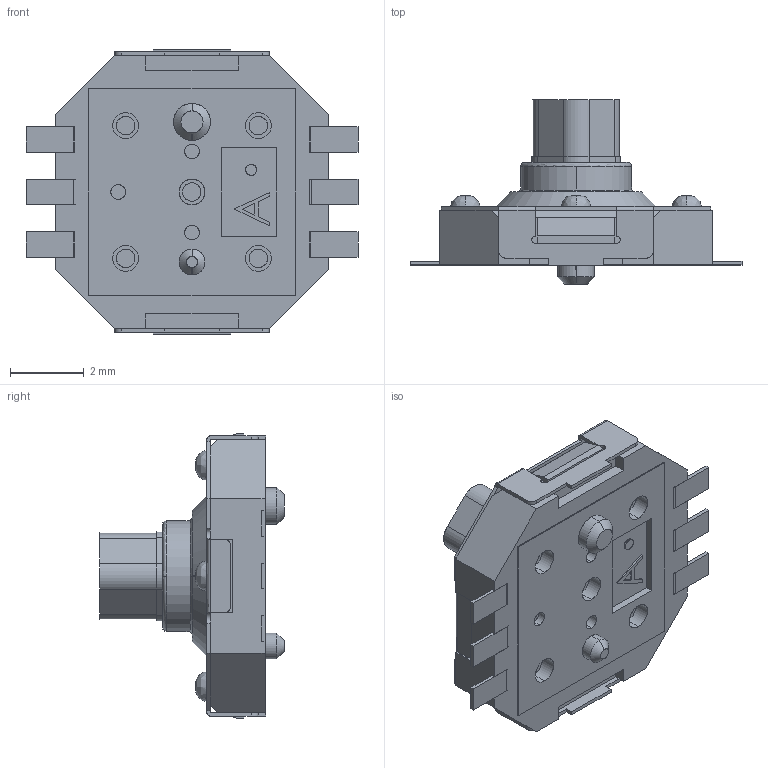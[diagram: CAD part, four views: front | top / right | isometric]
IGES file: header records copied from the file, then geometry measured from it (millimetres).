
Start section: SolidWorks IGES FILE using analytic representation for surfaces
Global section: file name: I:\J-暫存區\MT5-F.IGS,45; native system: HSolidWorks 2001Plus by SolidWorks Corporation; preprocessor: Version 5.3; author: RA6; date: 060616.160310; units: millimetre
Bounding box: 9 x 5 x 7.7 mm (x, y, z)
Surface area: 531.1 mm2 (no closed solid volume)
Topology: 0 solids, 0 shells, 986 faces, 30795 edges, 47439 vertices
Faces by surface type: bspline 658, revolution 328
